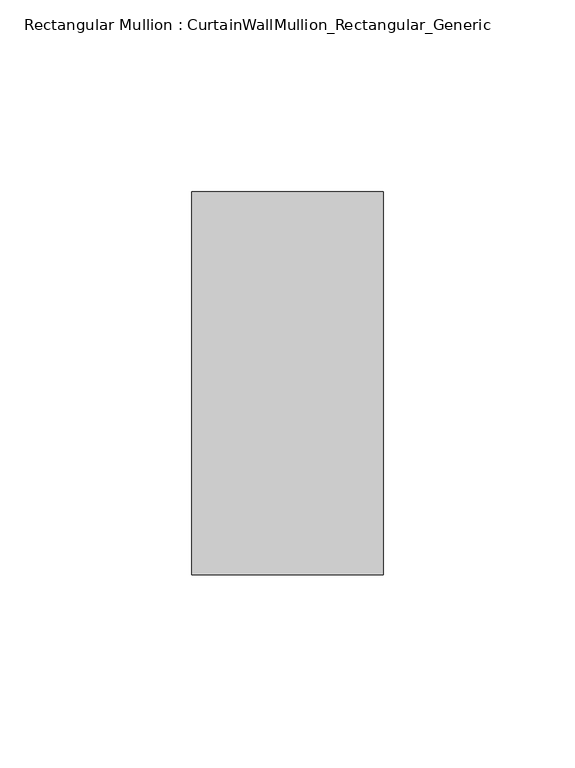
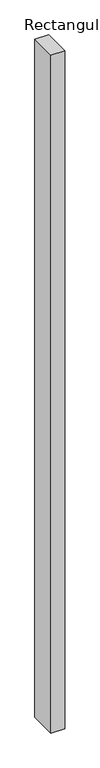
"""IFC4 building model written with IfcOpenShell, lengths in millimetres: member geometry, Rectangular Mullion : CurtainWallMullion_Rectangular_Generic."""

from ifc_helpers import new_model, si_unit, frame, origin, place, context, project, spatial, polyline, outline, extrude, source, transform, mapped, element, save


def rectangular_mullion_curtainwallmullion_rectangular_generic_54464770(model_context):
    return source(origin(), model_context, "Body", "SweptSolid", [
        extrude(outline(polyline([(0.0, 50.0), (0.0, -50.0), (-50.0, -50.0), (-50.0, 50.0), (0.0, 50.0)])), frame((0.0, 0.0, -2593.3333332), z_axis=(0.0, 0.0, 1.0), x_axis=(1.0, 0.0, 0.0)), (0.0, 0.0, 1.0), 2593.3333332),
    ])


if __name__ == "__main__":
    model = new_model("IFC4")
    model_context = context("Model", 3, world=origin())
    ifc_project = project(units=[si_unit("LENGTHUNIT", "METRE", prefix="MILLI")], contexts=[model_context])
    site = spatial("IfcSite", under=ifc_project)
    building = spatial("IfcBuilding", under=site)
    placement = place(None, origin())
    rectangular_mullion_curtainwallmullion_rectangular_generic_shape = rectangular_mullion_curtainwallmullion_rectangular_generic_54464770(model_context)
    element("IfcMember", 1, ObjectType="Rectangular Mullion : CurtainWallMullion_Rectangular_Generic", at=placement, inside=building, context=model_context, shape_type="MappedRepresentation", body=[
        mapped(rectangular_mullion_curtainwallmullion_rectangular_generic_shape, transform((0.0, 0.0, 0.0), x_axis=(1.0, 0.0, 0.0), y_axis=(0.0, 1.0, 0.0), z_axis=(0.0, 0.0, 1.0))),
    ])
    save(model, "model.ifc")
